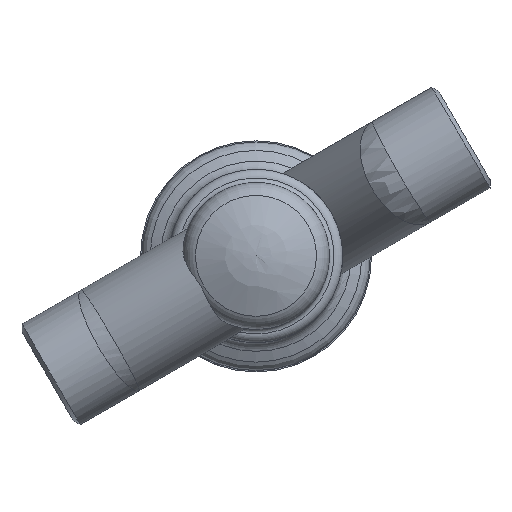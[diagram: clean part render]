
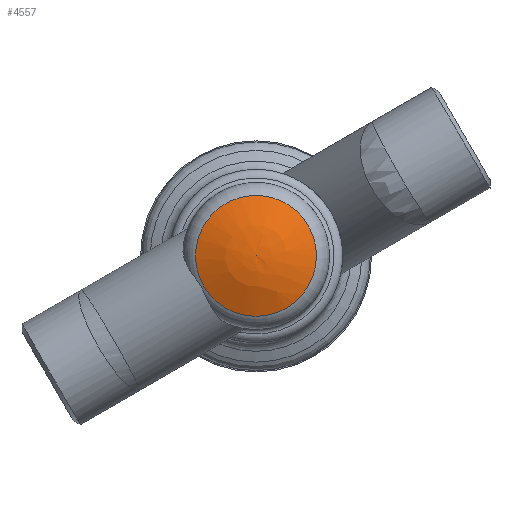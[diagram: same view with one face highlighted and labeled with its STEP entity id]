
A CAD part, top view. The second image highlights one B-rep face of the part: STEP entity #4557.
In plain terms, the highlighted free-form (B-spline) face has degree [2, 2] with [3, 9] control points.
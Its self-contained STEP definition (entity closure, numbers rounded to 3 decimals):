
#3723=CARTESIAN_POINT('',(-25.114,8.1,0.0));
#3724=VERTEX_POINT('',#3723);
#3725=CARTESIAN_POINT('',(0.0,8.1,0.0));
#3726=DIRECTION('',(0.0,1.0,0.0));
#3727=DIRECTION('',(-1.0,0.0,0.0));
#3728=AXIS2_PLACEMENT_3D('',#3725,#3726,#3727);
#3729=CIRCLE('',#3728,25.114);
#3730=EDGE_CURVE('',#3724,#3724,#3729,.T.);
#4519=CARTESIAN_POINT('',(0.,2.,0.));
#4520=CARTESIAN_POINT('',(0.,2.015,-13.294));
#4521=CARTESIAN_POINT('',(0.,8.1,-25.114));
#4522=CARTESIAN_POINT('',(0.,2.,0.));
#4523=CARTESIAN_POINT('',(13.294,2.015,-13.294));
#4524=CARTESIAN_POINT('',(25.114,8.1,-25.114));
#4525=CARTESIAN_POINT('',(0.,2.,0.));
#4526=CARTESIAN_POINT('',(13.294,2.015,0.));
#4527=CARTESIAN_POINT('',(25.114,8.1,0.));
#4528=CARTESIAN_POINT('',(0.,2.,0.));
#4529=CARTESIAN_POINT('',(13.294,2.015,13.294));
#4530=CARTESIAN_POINT('',(25.114,8.1,25.114));
#4531=CARTESIAN_POINT('',(0.,2.,0.));
#4532=CARTESIAN_POINT('',(0.,2.015,13.294));
#4533=CARTESIAN_POINT('',(0.,8.1,25.114));
#4534=CARTESIAN_POINT('',(0.,2.,0.));
#4535=CARTESIAN_POINT('',(-13.294,2.015,13.294));
#4536=CARTESIAN_POINT('',(-25.114,8.1,25.114));
#4537=CARTESIAN_POINT('',(0.,2.,0.));
#4538=CARTESIAN_POINT('',(-13.294,2.015,0.));
#4539=CARTESIAN_POINT('',(-25.114,8.1,0.));
#4540=CARTESIAN_POINT('',(0.,2.,0.));
#4541=CARTESIAN_POINT('',(-13.294,2.015,-13.294));
#4542=CARTESIAN_POINT('',(-25.114,8.1,-25.114));
#4543=CARTESIAN_POINT('',(0.,2.,0.));
#4544=CARTESIAN_POINT('',(0.,2.015,-13.294));
#4545=CARTESIAN_POINT('',(0.,8.1,-25.114));
#4553=(BOUNDED_SURFACE()B_SPLINE_SURFACE(2,2,((#4519,#4522,#4525,#4528,#4531,#4534,#4537,#4540,#4543),(#4520,#4523,#4526,#4529,#4532,#4535,#4538,#4541,#4544),(#4521,#4524,#4527,#4530,#4533,#4536,#4539,#4542,#4545)),.UNSPECIFIED.,.F.,.T.,.U.)B_SPLINE_SURFACE_WITH_KNOTS((3,3),(3,2,2,2,3),(-1.57,-1.095),(0.0,1.571,3.142,4.712,6.283),.UNSPECIFIED.)GEOMETRIC_REPRESENTATION_ITEM()RATIONAL_B_SPLINE_SURFACE(((1.0,0.707,1.0,0.707,1.0,0.707,1.0,0.707,1.0),(0.972,0.687,0.972,0.687,0.972,0.687,0.972,0.687,0.972),(1.0,0.707,1.0,0.707,1.0,0.707,1.0,0.707,1.0)))REPRESENTATION_ITEM('')SURFACE());
#4554=ORIENTED_EDGE('',*,*,#3730,.F.);
#4555=EDGE_LOOP('',(#4554));
#4556=FACE_OUTER_BOUND('',#4555,.T.);
#4557=ADVANCED_FACE('',(#4556),#4553,.T.);
